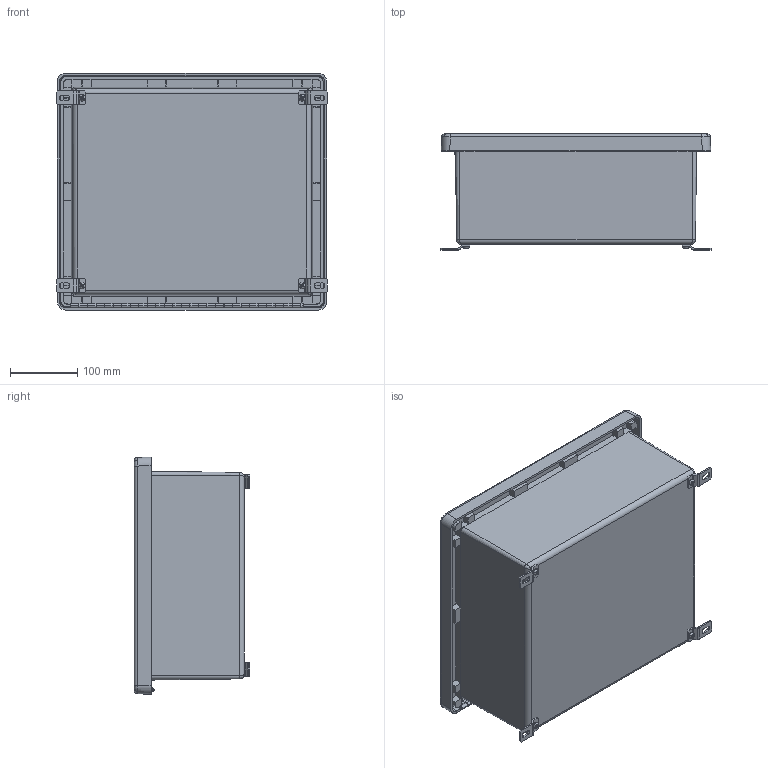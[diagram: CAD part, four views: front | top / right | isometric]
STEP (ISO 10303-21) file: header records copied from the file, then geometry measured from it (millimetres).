
FILE_DESCRIPTION (( 'STEP AP214' ), '1' );
FILE_NAME ('NF-6614.STEP', '2012-06-22T16:35:09', ( 'ENG1' ), ( '' ), 'SwSTEP 2.0', 'SolidWorks 2011', '' );
FILE_SCHEMA (( 'AUTOMOTIVE_DESIGN' ));
Length unit declared in the file: inch
Products named in the file (15): 6610-MB; M3 x 13mm-STS; 6610-RIVET; M5 x .8 BHCS; M5 x .8 BRASS INSERT; M5 x .8 Captive screw; 6610-M5 Captive Insert; 6610-HA_NF-6614 & NFL-6634 - CLOSED; 6610-Hinge Rod_6614; 6610-Hinge B_NF-6614 - NFL-6634; 6610-Hinge A_NF-6614 - NFL-6634; 6614-C_6614-C; 6614-P; 6614-B; NF-6614
Assembly tree (41 placements, depth 3):
  NF-6614
    6610-MB  x4
    6610-RIVET  x4
    6610-M5 Captive Insert  x2
    M5 x .8 BHCS  x8
    M5 x .8 Captive screw  x2
    M5 x .8 BRASS INSERT  x10
    6610-HA_NF-6614 & NFL-6634 - CLOSED
      6610-Hinge Rod_6614
      6610-Hinge B_NF-6614 - NFL-6634
      6610-Hinge A_NF-6614 - NFL-6634
    6614-C_6614-C
    6614-B
    M3 x 13mm-STS  x4
    6614-P
Bounding box: 402.59 x 172.63 x 353.79 mm (x, y, z)
Volume: 2146631.9 mm3; surface area: 1283018.6 mm2
Topology: 40 solids, 41 shells, 2564 faces, 7071 edges, 4610 vertices
Faces by surface type: cylinder 1193, plane 1151, bspline 92, cone 82, torus 46
Entity records: 44938 total; most frequent: CARTESIAN_POINT 15752, ORIENTED_EDGE 6096, DIRECTION 5434, EDGE_CURVE 3048, VERTEX_POINT 1966, AXIS2_PLACEMENT_3D 1850, VECTOR 1734, LINE 1734
